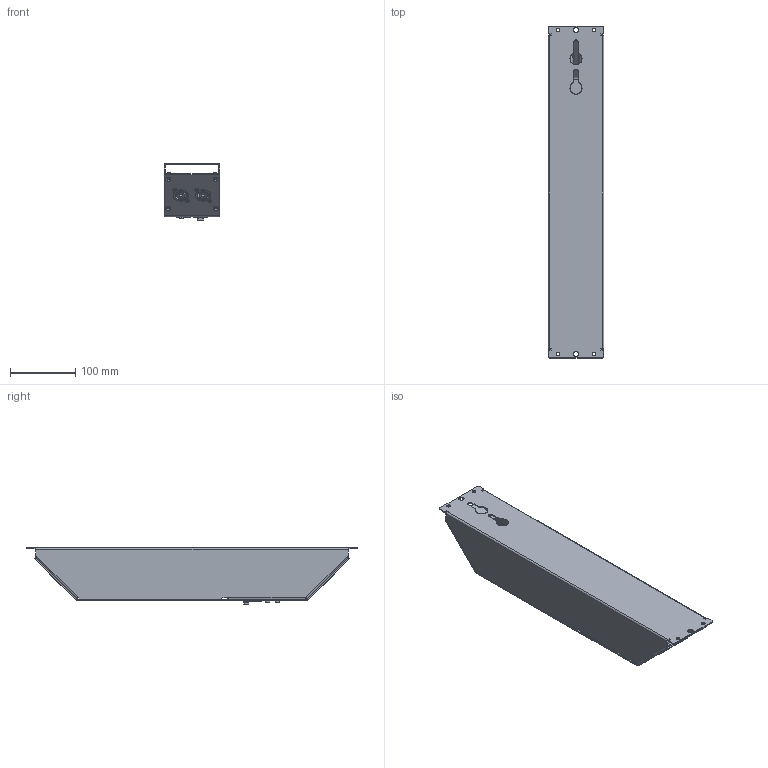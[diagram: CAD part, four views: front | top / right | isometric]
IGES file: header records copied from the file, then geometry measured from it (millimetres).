
Start section: SolidWorks IGES file using analytic representation for surfaces
Global section: file name: C:\Documents and Settings\Administrator\My Documents\Michl\SolidWorks\3d_Dateien_Homepage\Neue-Produkte\SEEBURG_Powerstick.IGS; native system: SolidWorks 2009; preprocessor: SolidWorks 2009; author: Administrator; date: 140404.092639; units: millimetre
Bounding box: 85 x 507.75 x 86.05 mm (x, y, z)
Surface area: 370948.5 mm2 (no closed solid volume)
Topology: 0 solids, 0 shells, 1361 faces, 17603 edges, 17601 vertices
Faces by surface type: bspline 730, revolution 631
